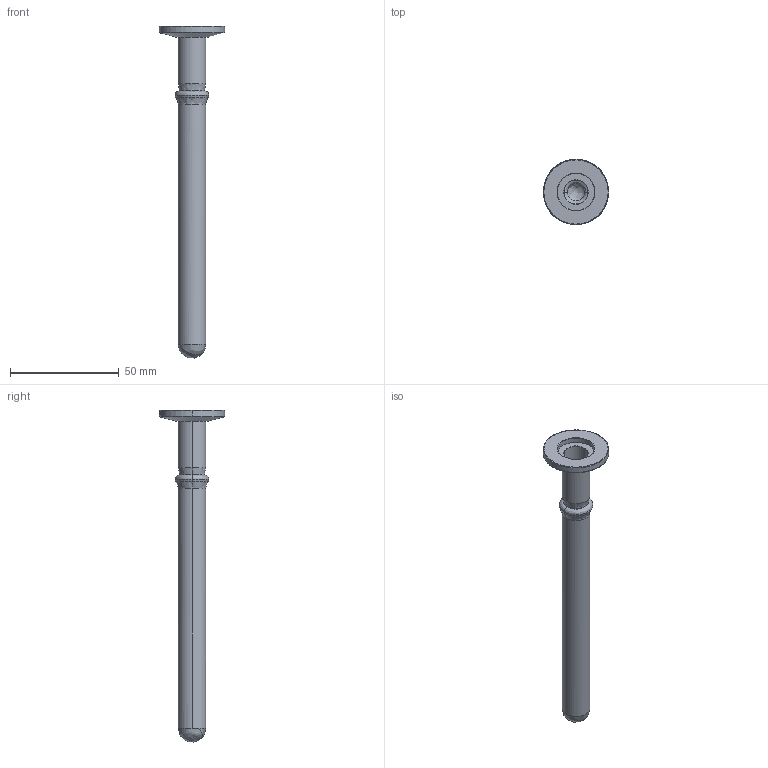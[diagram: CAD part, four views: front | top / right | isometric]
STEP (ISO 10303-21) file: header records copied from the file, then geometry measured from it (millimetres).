
FILE_DESCRIPTION (( 'STEP AP203' ), '1' );
FILE_NAME ('211008.stp', '2018-05-22T16:48:30', ( '' ), ( '' ), 'SwSTEP 2.0', 'SolidWorks 2012', '' );
FILE_SCHEMA (( 'CONFIG_CONTROL_DESIGN' ));
Length unit declared in the file: centimetre
Products named in the file (1): 211008
Bounding box: 29.97 x 29.97 x 152.3 mm (x, y, z)
Volume: 7794.6 mm3; surface area: 12593.4 mm2
Topology: 1 solids, 1 shells, 332 faces, 872 edges, 568 vertices
Faces by surface type: bspline 159, plane 117, cylinder 50, cone 6
Entity records: 34036 total; most frequent: CARTESIAN_POINT 26982, ORIENTED_EDGE 1732, DIRECTION 966, EDGE_CURVE 866, VERTEX_POINT 568, B_SPLINE_CURVE_WITH_KNOTS 367, EDGE_LOOP 364, ADVANCED_FACE 332
